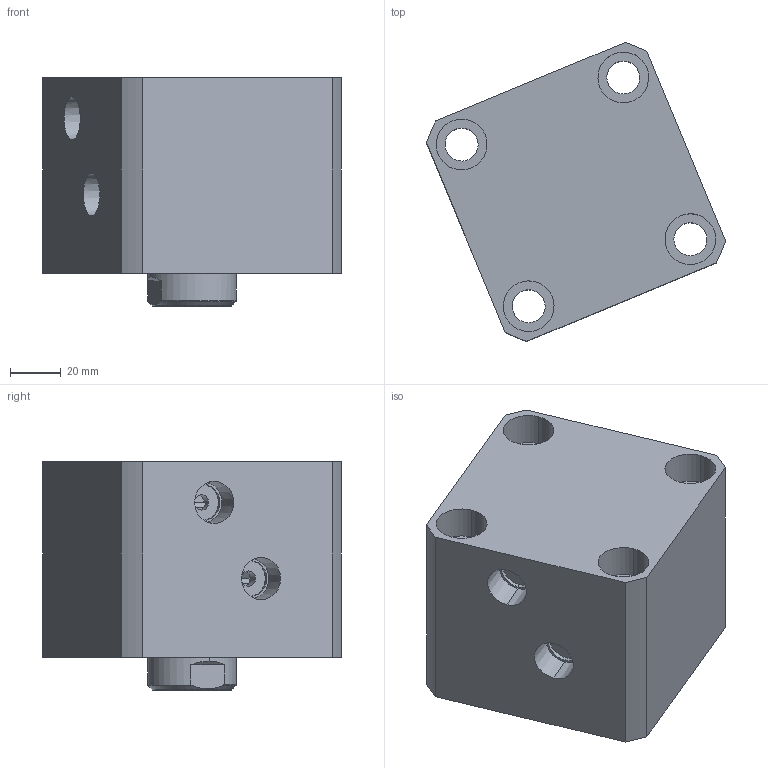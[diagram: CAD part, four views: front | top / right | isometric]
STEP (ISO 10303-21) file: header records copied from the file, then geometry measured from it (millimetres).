
FILE_DESCRIPTION (( 'STEP AP214' ), '1' );
FILE_NAME ('chtb-sd63x10n_asm.STEP', '2018-05-10T01:30:53', ( 'Windows' ), ( 'Microsoft' ), 'SwSTEP 2.0', 'SolidWorks 2015', '' );
FILE_SCHEMA (( 'AUTOMOTIVE_DESIGN' ));
Length unit declared in the file: millimetre
Products named in the file (4): CHTB63X10NHSG; CHTB63X10NBT; CHTB-63QG; chtb-sd63x10n_asm
Assembly tree (3 placements, depth 2):
  chtb-sd63x10n_asm
    CHTB-63QG
    CHTB63X10NBT
    CHTB63X10NHSG
Bounding box: 117.81 x 117.81 x 90 mm (x, y, z)
Volume: 590652.8 mm3; surface area: 111250.6 mm2
Topology: 3 solids, 3 shells, 165 faces, 465 edges, 318 vertices
Faces by surface type: cylinder 101, plane 33, bspline 12, cone 12, torus 7
Entity records: 17638 total; most frequent: CARTESIAN_POINT 13505, ORIENTED_EDGE 918, DIRECTION 719, EDGE_CURVE 459, VERTEX_POINT 318, AXIS2_PLACEMENT_3D 291, EDGE_LOOP 197, ADVANCED_FACE 165
